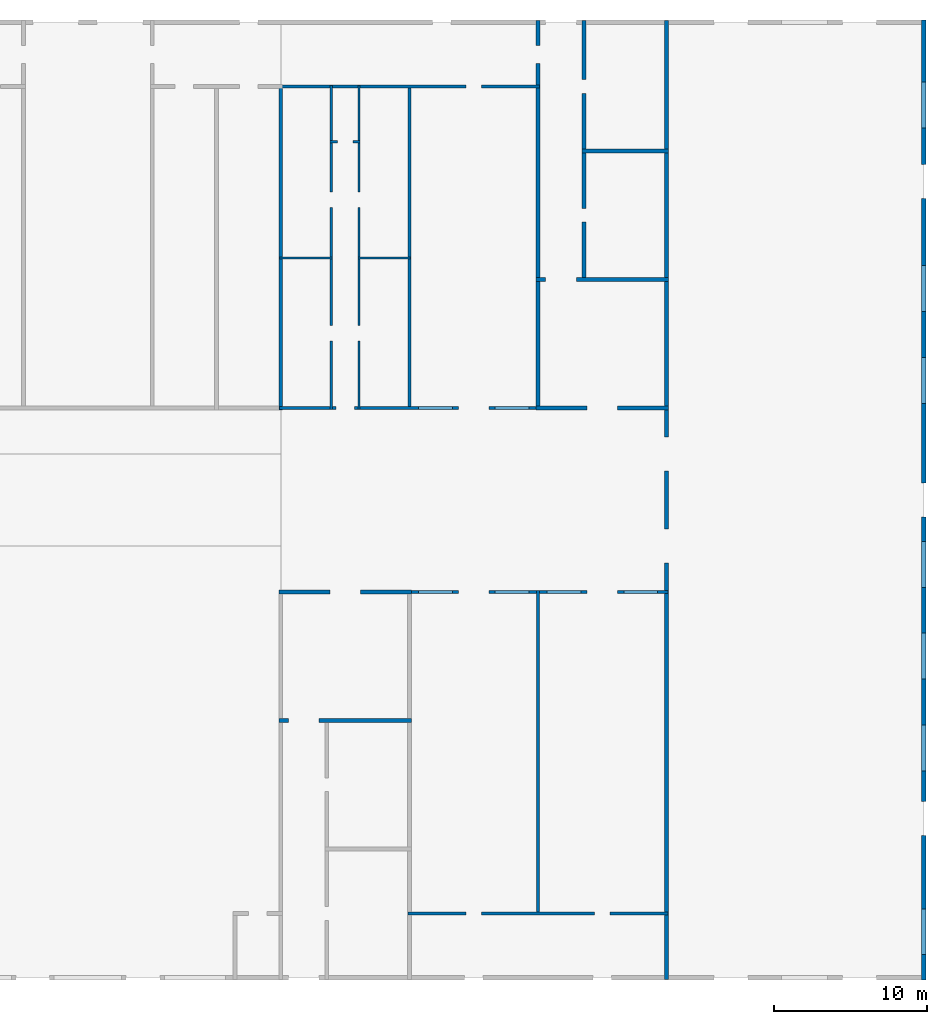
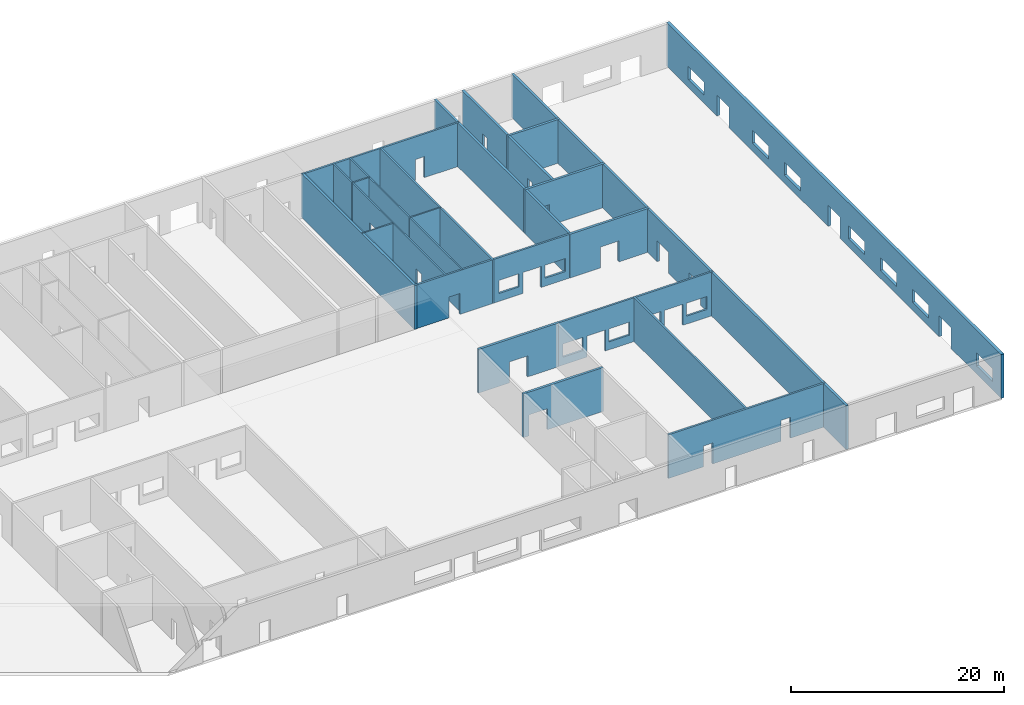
# One storey, part 3 of 3: 21 walls, 49 openings.
"""IFC4 building model written with IfcOpenShell, lengths in millimetres."""

from ifc_helpers import new_model, si_unit, frame, origin_with_axes, place, context, subcontext, project, spatial, indexed_curve, outline, extrude, type_object, element, save


model = new_model("IFC4")

# Units and contexts
model_context = context("Model", 3, precision=1e-05, world=origin_with_axes())
body_context = subcontext(model_context, "Body", "Model", "MODEL_VIEW")
ifc_project = project(units=[si_unit("AREAUNIT", "SQUARE_METRE"), si_unit("VOLUMEUNIT", "CUBIC_METRE"), si_unit("LENGTHUNIT", "METRE", prefix="MILLI")], contexts=[model_context])

# Site, building, storey
site = spatial("IfcSite", under=ifc_project, Name="PIN 00000000 (sample)")
building = spatial("IfcBuilding", under=site, Name="Sample Shopping Mall")
storey = spatial("IfcBuildingStorey", under=building, Name="Ground Floor", Elevation=0.0)

# Wall, openings
wall_type_1 = type_object("IfcWallType", Name="WT-300", PredefinedType="SOLIDWALL")
wall_1_placement = place(None, frame((114750.0, 15449.999999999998, 0.0), z_axis=(0.0, 0.0, 1.0), x_axis=(6.123233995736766e-17, 1.0, 0.0)))
wall_1 = element("IfcWall", 1, at=wall_1_placement, inside=storey, type_object=wall_type_1, Name="W59", context=body_context, shape_type="SweptSolid", body=[
    extrude(outline(indexed_curve([(0.0, 0.0), (0.0, 300.0), (62699.99999999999, 300.0), (62699.99999999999, 0.0), (0.0, 0.0)], self_intersect=False)), origin_with_axes(), (0.0, 0.0, 1.0), 5000.0),
])
opening_1_placement = place(wall_1_placement, frame((9450.0, -99.99999999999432, 0.0), z_axis=(0.0, 0.0, 1.0), x_axis=(1.0, 0.0, 0.0)))
element("IfcOpeningElement", 2, at=opening_1_placement, cuts=wall_1, Name="D16-opening", context=body_context, shape_type="SweptSolid", body=[
    extrude(outline(indexed_curve([(0.0, 0.0), (0.0, 500.0), (1100.0, 500.0), (1100.0, 0.0), (0.0, 0.0)], self_intersect=False)), origin_with_axes(), (0.0, 0.0, 1.0), 2400.0),
])
opening_2_placement = place(wall_1_placement, frame((10550.0, -99.99999999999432, 0.0), z_axis=(0.0, 0.0, 1.0), x_axis=(1.0, 0.0, 0.0)))
element("IfcOpeningElement", 3, at=opening_2_placement, cuts=wall_1, Name="-opening", context=body_context, shape_type="SweptSolid", body=[
    extrude(outline(indexed_curve([(0.0, 0.0), (0.0, 500.0), (1100.0, 500.0), (1100.0, 0.0), (0.0, 0.0)], self_intersect=False)), origin_with_axes(), (0.0, 0.0, 1.0), 2400.0),
])
opening_3_placement = place(wall_1_placement, frame((30250.000000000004, -99.99999999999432, 0.0), z_axis=(0.0, 0.0, 1.0), x_axis=(1.0, 0.0, 0.0)))
element("IfcOpeningElement", 4, at=opening_3_placement, cuts=wall_1, Name="D17-opening", context=body_context, shape_type="SweptSolid", body=[
    extrude(outline(indexed_curve([(0.0, 0.0), (0.0, 500.0), (1100.0, 500.0), (1100.0, 0.0), (0.0, 0.0)], self_intersect=False)), origin_with_axes(), (0.0, 0.0, 1.0), 2400.0),
])
opening_4_placement = place(wall_1_placement, frame((31349.999999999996, -99.99999999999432, 0.0), z_axis=(0.0, 0.0, 1.0), x_axis=(1.0, 0.0, 0.0)))
element("IfcOpeningElement", 5, at=opening_4_placement, cuts=wall_1, Name="-opening", context=body_context, shape_type="SweptSolid", body=[
    extrude(outline(indexed_curve([(0.0, 0.0), (0.0, 500.0), (1100.0, 500.0), (1100.0, 0.0), (0.0, 0.0)], self_intersect=False)), origin_with_axes(), (0.0, 0.0, 1.0), 2400.0),
])
opening_5_placement = place(wall_1_placement, frame((51049.99999999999, -99.99999999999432, 0.0), z_axis=(0.0, 0.0, 1.0), x_axis=(1.0, 0.0, 0.0)))
element("IfcOpeningElement", 6, at=opening_5_placement, cuts=wall_1, Name="D18-opening", context=body_context, shape_type="SweptSolid", body=[
    extrude(outline(indexed_curve([(0.0, 0.0), (0.0, 500.0), (1100.0, 500.0), (1100.0, 0.0), (0.0, 0.0)], self_intersect=False)), origin_with_axes(), (0.0, 0.0, 1.0), 2400.0),
])
opening_6_placement = place(wall_1_placement, frame((52149.99999999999, -99.99999999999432, 0.0), z_axis=(0.0, 0.0, 1.0), x_axis=(1.0, 0.0, 0.0)))
element("IfcOpeningElement", 7, at=opening_6_placement, cuts=wall_1, Name="-opening", context=body_context, shape_type="SweptSolid", body=[
    extrude(outline(indexed_curve([(0.0, 0.0), (0.0, 500.0), (1100.0, 500.0), (1100.0, 0.0), (0.0, 0.0)], self_intersect=False)), origin_with_axes(), (0.0, 0.0, 1.0), 2400.0),
])
opening_7_placement = place(wall_1_placement, frame((1650.000000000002, -99.99999999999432, 900.0), z_axis=(0.0, 0.0, 1.0), x_axis=(1.0, 0.0, 0.0)))
element("IfcOpeningElement", 8, at=opening_7_placement, cuts=wall_1, Name="-opening", context=body_context, shape_type="SweptSolid", body=[
    extrude(outline(indexed_curve([(0.0, 0.0), (0.0, 500.0), (3000.0, 500.0), (3000.0, 0.0), (0.0, 0.0)], self_intersect=False)), origin_with_axes(), (0.0, 0.0, 1.0), 1500.0),
])
opening_8_placement = place(wall_1_placement, frame((13650.000000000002, -99.99999999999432, 900.0), z_axis=(0.0, 0.0, 1.0), x_axis=(1.0, 0.0, 0.0)))
element("IfcOpeningElement", 9, at=opening_8_placement, cuts=wall_1, Name="-opening", context=body_context, shape_type="SweptSolid", body=[
    extrude(outline(indexed_curve([(0.0, 0.0), (0.0, 500.0), (3000.0, 500.0), (3000.0, 0.0), (0.0, 0.0)], self_intersect=False)), origin_with_axes(), (0.0, 0.0, 1.0), 1500.0),
])
opening_9_placement = place(wall_1_placement, frame((19650.0, -99.99999999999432, 900.0), z_axis=(0.0, 0.0, 1.0), x_axis=(1.0, 0.0, 0.0)))
element("IfcOpeningElement", 10, at=opening_9_placement, cuts=wall_1, Name="-opening", context=body_context, shape_type="SweptSolid", body=[
    extrude(outline(indexed_curve([(0.0, 0.0), (0.0, 500.0), (3000.0, 500.0), (3000.0, 0.0), (0.0, 0.0)], self_intersect=False)), origin_with_axes(), (0.0, 0.0, 1.0), 1500.0),
])
opening_10_placement = place(wall_1_placement, frame((25650.0, -99.99999999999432, 900.0), z_axis=(0.0, 0.0, 1.0), x_axis=(1.0, 0.0, 0.0)))
element("IfcOpeningElement", 11, at=opening_10_placement, cuts=wall_1, Name="-opening", context=body_context, shape_type="SweptSolid", body=[
    extrude(outline(indexed_curve([(0.0, 0.0), (0.0, 500.0), (3000.0, 500.0), (3000.0, 0.0), (0.0, 0.0)], self_intersect=False)), origin_with_axes(), (0.0, 0.0, 1.0), 1500.0),
])
opening_11_placement = place(wall_1_placement, frame((37650.00000000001, -99.99999999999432, 900.0), z_axis=(0.0, 0.0, 1.0), x_axis=(1.0, 0.0, 0.0)))
element("IfcOpeningElement", 12, at=opening_11_placement, cuts=wall_1, Name="-opening", context=body_context, shape_type="SweptSolid", body=[
    extrude(outline(indexed_curve([(0.0, 0.0), (0.0, 500.0), (3000.0, 500.0), (3000.0, 0.0), (0.0, 0.0)], self_intersect=False)), origin_with_axes(), (0.0, 0.0, 1.0), 1500.0),
])
opening_12_placement = place(wall_1_placement, frame((43650.00000000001, -99.99999999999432, 900.0), z_axis=(0.0, 0.0, 1.0), x_axis=(1.0, 0.0, 0.0)))
element("IfcOpeningElement", 13, at=opening_12_placement, cuts=wall_1, Name="-opening", context=body_context, shape_type="SweptSolid", body=[
    extrude(outline(indexed_curve([(0.0, 0.0), (0.0, 500.0), (3000.0, 500.0), (3000.0, 0.0), (0.0, 0.0)], self_intersect=False)), origin_with_axes(), (0.0, 0.0, 1.0), 1500.0),
])
opening_13_placement = place(wall_1_placement, frame((55650.00000000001, -99.99999999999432, 900.0), z_axis=(0.0, 0.0, 1.0), x_axis=(1.0, 0.0, 0.0)))
element("IfcOpeningElement", 14, at=opening_13_placement, cuts=wall_1, Name="-opening", context=body_context, shape_type="SweptSolid", body=[
    extrude(outline(indexed_curve([(0.0, 0.0), (0.0, 500.0), (3000.0, 500.0), (3000.0, 0.0), (0.0, 0.0)], self_intersect=False)), origin_with_axes(), (0.0, 0.0, 1.0), 1500.0),
])

wall_type_2 = type_object("IfcWallType", Name="WT-200", PredefinedType="SOLIDWALL")
wall_2_placement = place(None, frame((80900.0, 19700.0, 0.0), z_axis=(0.0, 0.0, 1.0), x_axis=(1.0, 0.0, 0.0)))
wall_2 = element("IfcWall", 15, at=wall_2_placement, inside=storey, type_object=wall_type_2, Name="W4", context=body_context, shape_type="SweptSolid", body=[
    extrude(outline(indexed_curve([(0.0, 0.0), (0.0, 200.0), (16999.999999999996, 200.0), (16999.999999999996, 0.0), (0.0, 0.0)], self_intersect=False)), origin_with_axes(), (0.0, 0.0, 1.0), 5000.0),
])
opening_14_placement = place(wall_2_placement, frame((3799.9999999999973, -99.99999999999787, 0.0), z_axis=(0.0, 0.0, 1.0), x_axis=(1.0, 0.0, 0.0)))
element("IfcOpeningElement", 16, at=opening_14_placement, cuts=wall_2, Name="-opening", context=body_context, shape_type="SweptSolid", body=[
    extrude(outline(indexed_curve([(0.0, 0.0), (0.0, 400.0), (1000.0, 400.0), (1000.0, 0.0), (0.0, 0.0)], self_intersect=False)), origin_with_axes(), (0.0, 0.0, 1.0), 2400.0),
])
opening_15_placement = place(wall_2_placement, frame((12199.999999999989, -99.99999999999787, 0.0), z_axis=(0.0, 0.0, 1.0), x_axis=(1.0, 0.0, 0.0)))
element("IfcOpeningElement", 17, at=opening_15_placement, cuts=wall_2, Name="-opening", context=body_context, shape_type="SweptSolid", body=[
    extrude(outline(indexed_curve([(0.0, 0.0), (0.0, 400.0), (1000.0, 400.0), (1000.0, 0.0), (0.0, 0.0)], self_intersect=False)), origin_with_axes(), (0.0, 0.0, 1.0), 2400.0),
])

wall_3_placement = place(None, frame((80900.0, 40699.99999999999, 0.0), z_axis=(0.0, 0.0, 1.0), x_axis=(1.0, 0.0, 0.0)))
wall_3 = element("IfcWall", 18, at=wall_3_placement, inside=storey, type_object=wall_type_2, Name="W12", context=body_context, shape_type="SweptSolid", body=[
    extrude(outline(indexed_curve([(0.0, 0.0), (0.0, 200.0), (16999.999999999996, 200.0), (16999.999999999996, 0.0), (0.0, 0.0)], self_intersect=False)), origin_with_axes(), (0.0, 0.0, 1.0), 5000.0),
])
opening_16_placement = place(wall_3_placement, frame((3299.9999999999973, -100.00000000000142, 0.0), z_axis=(0.0, 0.0, 1.0), x_axis=(1.0, 0.0, 0.0)))
element("IfcOpeningElement", 19, at=opening_16_placement, cuts=wall_3, Name="D46-opening", context=body_context, shape_type="SweptSolid", body=[
    extrude(outline(indexed_curve([(0.0, 0.0), (0.0, 400.0), (1000.0, 400.0), (1000.0, 0.0), (0.0, 0.0)], self_intersect=False)), origin_with_axes(), (0.0, 0.0, 1.0), 2400.0),
])
opening_17_placement = place(wall_3_placement, frame((4299.999999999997, -100.00000000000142, 0.0), z_axis=(0.0, 0.0, 1.0), x_axis=(1.0, 0.0, 0.0)))
element("IfcOpeningElement", 20, at=opening_17_placement, cuts=wall_3, Name="-opening", context=body_context, shape_type="SweptSolid", body=[
    extrude(outline(indexed_curve([(0.0, 0.0), (0.0, 400.0), (1000.0, 400.0), (1000.0, 0.0), (0.0, 0.0)], self_intersect=False)), origin_with_axes(), (0.0, 0.0, 1.0), 2400.0),
])
opening_18_placement = place(wall_3_placement, frame((11699.999999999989, -100.00000000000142, 0.0), z_axis=(0.0, 0.0, 1.0), x_axis=(1.0, 0.0, 0.0)))
element("IfcOpeningElement", 21, at=opening_18_placement, cuts=wall_3, Name="D48-opening", context=body_context, shape_type="SweptSolid", body=[
    extrude(outline(indexed_curve([(0.0, 0.0), (0.0, 400.0), (1000.0, 400.0), (1000.0, 0.0), (0.0, 0.0)], self_intersect=False)), origin_with_axes(), (0.0, 0.0, 1.0), 2400.0),
])
opening_19_placement = place(wall_3_placement, frame((12699.999999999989, -100.00000000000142, 0.0), z_axis=(0.0, 0.0, 1.0), x_axis=(1.0, 0.0, 0.0)))
element("IfcOpeningElement", 22, at=opening_19_placement, cuts=wall_3, Name="-opening", context=body_context, shape_type="SweptSolid", body=[
    extrude(outline(indexed_curve([(0.0, 0.0), (0.0, 400.0), (1000.0, 400.0), (1000.0, 0.0), (0.0, 0.0)], self_intersect=False)), origin_with_axes(), (0.0, 0.0, 1.0), 2400.0),
])
opening_20_placement = place(wall_3_placement, frame((699.9999999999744, -100.00000000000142, 900.0), z_axis=(0.0, 0.0, 1.0), x_axis=(1.0, 0.0, 0.0)))
element("IfcOpeningElement", 23, at=opening_20_placement, cuts=wall_3, Name="-opening", context=body_context, shape_type="SweptSolid", body=[
    extrude(outline(indexed_curve([(0.0, 0.0), (0.0, 400.0), (2200.0, 400.0), (2200.0, 0.0), (0.0, 0.0)], self_intersect=False)), origin_with_axes(), (0.0, 0.0, 1.0), 1500.0),
])
opening_21_placement = place(wall_3_placement, frame((5699.999999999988, -100.00000000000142, 900.0), z_axis=(0.0, 0.0, 1.0), x_axis=(1.0, 0.0, 0.0)))
element("IfcOpeningElement", 24, at=opening_21_placement, cuts=wall_3, Name="-opening", context=body_context, shape_type="SweptSolid", body=[
    extrude(outline(indexed_curve([(0.0, 0.0), (0.0, 400.0), (2200.0, 400.0), (2200.0, 0.0), (0.0, 0.0)], self_intersect=False)), origin_with_axes(), (0.0, 0.0, 1.0), 1500.0),
])
opening_22_placement = place(wall_3_placement, frame((9099.999999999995, -100.00000000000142, 900.0), z_axis=(0.0, 0.0, 1.0), x_axis=(1.0, 0.0, 0.0)))
element("IfcOpeningElement", 25, at=opening_22_placement, cuts=wall_3, Name="-opening", context=body_context, shape_type="SweptSolid", body=[
    extrude(outline(indexed_curve([(0.0, 0.0), (0.0, 400.0), (2200.0, 400.0), (2200.0, 0.0), (0.0, 0.0)], self_intersect=False)), origin_with_axes(), (0.0, 0.0, 1.0), 1500.0),
])
opening_23_placement = place(wall_3_placement, frame((14099.999999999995, -100.00000000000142, 900.0), z_axis=(0.0, 0.0, 1.0), x_axis=(1.0, 0.0, 0.0)))
element("IfcOpeningElement", 26, at=opening_23_placement, cuts=wall_3, Name="-opening", context=body_context, shape_type="SweptSolid", body=[
    extrude(outline(indexed_curve([(0.0, 0.0), (0.0, 400.0), (2200.0, 400.0), (2200.0, 0.0), (0.0, 0.0)], self_intersect=False)), origin_with_axes(), (0.0, 0.0, 1.0), 1500.0),
])

wall_4_placement = place(None, frame((72500.0, 52699.99999999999, 0.0), z_axis=(0.0, 0.0, 1.0), x_axis=(1.0, 0.0, 0.0)))
wall_4 = element("IfcWall", 27, at=wall_4_placement, inside=storey, type_object=wall_type_2, Name="W15", context=body_context, shape_type="SweptSolid", body=[
    extrude(outline(indexed_curve([(0.0, 0.0), (0.0, 200.0), (17000.00000000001, 200.0), (17000.00000000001, 0.0), (0.0, 0.0)], self_intersect=False)), origin_with_axes(), (0.0, 0.0, 1.0), 5000.0),
])
opening_24_placement = place(wall_4_placement, frame((3699.9999999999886, -100.00000000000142, 0.0), z_axis=(0.0, 0.0, 1.0), x_axis=(1.0, 0.0, 0.0)))
element("IfcOpeningElement", 28, at=opening_24_placement, cuts=wall_4, Name="D68-opening", context=body_context, shape_type="SweptSolid", body=[
    extrude(outline(indexed_curve([(0.0, 0.0), (0.0, 400.0), (1200.0, 400.0), (1200.0, 0.0), (0.0, 0.0)], self_intersect=False)), origin_with_axes(), (0.0, 0.0, 1.0), 2400.0),
])
opening_25_placement = place(wall_4_placement, frame((11699.999999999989, -100.00000000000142, 0.0), z_axis=(0.0, 0.0, 1.0), x_axis=(1.0, 0.0, 0.0)))
element("IfcOpeningElement", 29, at=opening_25_placement, cuts=wall_4, Name="D74-opening", context=body_context, shape_type="SweptSolid", body=[
    extrude(outline(indexed_curve([(0.0, 0.0), (0.0, 400.0), (1000.0, 400.0), (1000.0, 0.0), (0.0, 0.0)], self_intersect=False)), origin_with_axes(), (0.0, 0.0, 1.0), 2400.0),
])
opening_26_placement = place(wall_4_placement, frame((12699.999999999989, -100.00000000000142, 0.0), z_axis=(0.0, 0.0, 1.0), x_axis=(1.0, 0.0, 0.0)))
element("IfcOpeningElement", 30, at=opening_26_placement, cuts=wall_4, Name="-opening", context=body_context, shape_type="SweptSolid", body=[
    extrude(outline(indexed_curve([(0.0, 0.0), (0.0, 400.0), (1000.0, 400.0), (1000.0, 0.0), (0.0, 0.0)], self_intersect=False)), origin_with_axes(), (0.0, 0.0, 1.0), 2400.0),
])
opening_27_placement = place(wall_4_placement, frame((9099.99999999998, -100.00000000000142, 900.0), z_axis=(0.0, 0.0, 1.0), x_axis=(1.0, 0.0, 0.0)))
element("IfcOpeningElement", 31, at=opening_27_placement, cuts=wall_4, Name="-opening", context=body_context, shape_type="SweptSolid", body=[
    extrude(outline(indexed_curve([(0.0, 0.0), (0.0, 400.0), (2200.0, 400.0), (2200.0, 0.0), (0.0, 0.0)], self_intersect=False)), origin_with_axes(), (0.0, 0.0, 1.0), 1500.0),
])
opening_28_placement = place(wall_4_placement, frame((14099.999999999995, -100.00000000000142, 900.0), z_axis=(0.0, 0.0, 1.0), x_axis=(1.0, 0.0, 0.0)))
element("IfcOpeningElement", 32, at=opening_28_placement, cuts=wall_4, Name="-opening", context=body_context, shape_type="SweptSolid", body=[
    extrude(outline(indexed_curve([(0.0, 0.0), (0.0, 400.0), (2200.0, 400.0), (2200.0, 0.0), (0.0, 0.0)], self_intersect=False)), origin_with_axes(), (0.0, 0.0, 1.0), 1500.0),
])

# Wall, opening
wall_5_placement = place(None, frame((72500.0, 73700.0, 0.0), z_axis=(0.0, 0.0, 1.0), x_axis=(1.0, 0.0, 0.0)))
wall_5 = element("IfcWall", 33, at=wall_5_placement, inside=storey, type_object=wall_type_2, Name="W28", context=body_context, shape_type="SweptSolid", body=[
    extrude(outline(indexed_curve([(0.0, 0.0), (0.0, 200.0), (17000.00000000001, 200.0), (17000.00000000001, 0.0), (0.0, 0.0)], self_intersect=False)), origin_with_axes(), (0.0, 0.0, 1.0), 5000.0),
])
opening_29_placement = place(wall_5_placement, frame((12199.999999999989, -99.99999999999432, 0.0), z_axis=(0.0, 0.0, 1.0), x_axis=(1.0, 0.0, 0.0)))
element("IfcOpeningElement", 34, at=opening_29_placement, cuts=wall_5, Name="-opening", context=body_context, shape_type="SweptSolid", body=[
    extrude(outline(indexed_curve([(0.0, 0.0), (0.0, 400.0), (1000.0, 400.0), (1000.0, 0.0), (0.0, 0.0)], self_intersect=False)), origin_with_axes(), (0.0, 0.0, 1.0), 2400.0),
])

# Walls
wall_6_placement = place(None, frame((81099.99999999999, 52699.99999999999, 0.0), z_axis=(0.0, 0.0, 1.0), x_axis=(6.123233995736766e-17, 1.0, 0.0)))
element("IfcWall", 35, at=wall_6_placement, inside=storey, type_object=wall_type_2, Name="W54", context=body_context, shape_type="SweptSolid", body=[
    extrude(outline(indexed_curve([(0.0, 0.0), (0.0, 200.0), (21200.0, 200.0), (21200.0, 0.0), (0.0, 0.0)], self_intersect=False)), origin_with_axes(), (0.0, 0.0, 1.0), 5000.0),
])
wall_7_placement = place(None, frame((89500.0, 19700.0, 0.0), z_axis=(0.0, 0.0, 1.0), x_axis=(6.123233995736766e-17, 1.0, 0.0)))
element("IfcWall", 36, at=wall_7_placement, inside=storey, type_object=wall_type_2, Name="W55", context=body_context, shape_type="SweptSolid", body=[
    extrude(outline(indexed_curve([(0.0, 0.0), (0.0, 200.0), (21199.999999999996, 200.0), (21199.999999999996, 0.0), (0.0, 0.0)], self_intersect=False)), origin_with_axes(), (0.0, 0.0, 1.0), 5000.0),
])

# Wall, openings
wall_type_3 = type_object("IfcWallType", Name="WT-250", PredefinedType="SOLIDWALL")
wall_8_placement = place(None, frame((72475.0, 32274.999999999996, 0.0), z_axis=(0.0, 0.0, 1.0), x_axis=(1.0, 0.0, 0.0)))
wall_8 = element("IfcWall", 37, at=wall_8_placement, inside=storey, type_object=wall_type_3, Name="W8", context=body_context, shape_type="SweptSolid", body=[
    extrude(outline(indexed_curve([(0.0, 0.0), (0.0, 250.0), (8650.000000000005, 250.0), (8650.000000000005, 0.0), (0.0, 0.0)], self_intersect=False)), origin_with_axes(), (0.0, 0.0, 1.0), 5000.0),
])
opening_30_placement = place(wall_8_placement, frame((625.0, -100.00000000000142, 0.0), z_axis=(0.0, 0.0, 1.0), x_axis=(1.0, 0.0, 0.0)))
element("IfcOpeningElement", 38, at=opening_30_placement, cuts=wall_8, Name="D42-opening", context=body_context, shape_type="SweptSolid", body=[
    extrude(outline(indexed_curve([(0.0, 0.0), (0.0, 450.0), (1000.0, 450.0), (1000.0, 0.0), (0.0, 0.0)], self_intersect=False)), origin_with_axes(), (0.0, 0.0, 1.0), 2400.0),
])
opening_31_placement = place(wall_8_placement, frame((1625.0, -100.00000000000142, 0.0), z_axis=(0.0, 0.0, 1.0), x_axis=(1.0, 0.0, 0.0)))
element("IfcOpeningElement", 39, at=opening_31_placement, cuts=wall_8, Name="-opening", context=body_context, shape_type="SweptSolid", body=[
    extrude(outline(indexed_curve([(0.0, 0.0), (0.0, 450.0), (1000.0, 450.0), (1000.0, 0.0), (0.0, 0.0)], self_intersect=False)), origin_with_axes(), (0.0, 0.0, 1.0), 2400.0),
])

wall_9_placement = place(None, frame((72475.0, 40674.99999999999, 0.0), z_axis=(0.0, 0.0, 1.0), x_axis=(1.0, 0.0, 0.0)))
wall_9 = element("IfcWall", 40, at=wall_9_placement, inside=storey, type_object=wall_type_3, Name="W11", context=body_context, shape_type="SweptSolid", body=[
    extrude(outline(indexed_curve([(0.0, 0.0), (0.0, 250.0), (8650.000000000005, 250.0), (8650.000000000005, 0.0), (0.0, 0.0)], self_intersect=False)), origin_with_axes(), (0.0, 0.0, 1.0), 5000.0),
])
opening_32_placement = place(wall_9_placement, frame((3324.9999999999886, -99.99999999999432, 0.0), z_axis=(0.0, 0.0, 1.0), x_axis=(1.0, 0.0, 0.0)))
element("IfcOpeningElement", 41, at=opening_32_placement, cuts=wall_9, Name="D41-opening", context=body_context, shape_type="SweptSolid", body=[
    extrude(outline(indexed_curve([(0.0, 0.0), (0.0, 450.0), (1000.0, 450.0), (1000.0, 0.0), (0.0, 0.0)], self_intersect=False)), origin_with_axes(), (0.0, 0.0, 1.0), 2400.0),
])
opening_33_placement = place(wall_9_placement, frame((4324.999999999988, -99.99999999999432, 0.0), z_axis=(0.0, 0.0, 1.0), x_axis=(1.0, 0.0, 0.0)))
element("IfcOpeningElement", 42, at=opening_33_placement, cuts=wall_9, Name="-opening", context=body_context, shape_type="SweptSolid", body=[
    extrude(outline(indexed_curve([(0.0, 0.0), (0.0, 450.0), (1000.0, 450.0), (1000.0, 0.0), (0.0, 0.0)], self_intersect=False)), origin_with_axes(), (0.0, 0.0, 1.0), 2400.0),
])

wall_10_placement = place(None, frame((89275.0, 52674.99999999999, 0.0), z_axis=(0.0, 0.0, 1.0), x_axis=(1.0, 0.0, 0.0)))
wall_10 = element("IfcWall", 43, at=wall_10_placement, inside=storey, type_object=wall_type_3, Name="W16", context=body_context, shape_type="SweptSolid", body=[
    extrude(outline(indexed_curve([(0.0, 0.0), (0.0, 250.0), (8649.99999999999, 250.0), (8649.99999999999, 0.0), (0.0, 0.0)], self_intersect=False)), origin_with_axes(), (0.0, 0.0, 1.0), 5000.0),
])
opening_34_placement = place(wall_10_placement, frame((3325.0000000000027, -100.00000000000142, 0.0), z_axis=(0.0, 0.0, 1.0), x_axis=(1.0, 0.0, 0.0)))
element("IfcOpeningElement", 44, at=opening_34_placement, cuts=wall_10, Name="D76-opening", context=body_context, shape_type="SweptSolid", body=[
    extrude(outline(indexed_curve([(0.0, 0.0), (0.0, 450.0), (1000.0, 450.0), (1000.0, 0.0), (0.0, 0.0)], self_intersect=False)), origin_with_axes(), (0.0, 0.0, 1.0), 2400.0),
])
opening_35_placement = place(wall_10_placement, frame((4325.000000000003, -100.00000000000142, 0.0), z_axis=(0.0, 0.0, 1.0), x_axis=(1.0, 0.0, 0.0)))
element("IfcOpeningElement", 45, at=opening_35_placement, cuts=wall_10, Name="-opening", context=body_context, shape_type="SweptSolid", body=[
    extrude(outline(indexed_curve([(0.0, 0.0), (0.0, 450.0), (1000.0, 450.0), (1000.0, 0.0), (0.0, 0.0)], self_intersect=False)), origin_with_axes(), (0.0, 0.0, 1.0), 2400.0),
])

wall_11_placement = place(None, frame((89275.0, 61075.0, 0.0), z_axis=(0.0, 0.0, 1.0), x_axis=(1.0, 0.0, 0.0)))
wall_11 = element("IfcWall", 46, at=wall_11_placement, inside=storey, type_object=wall_type_3, Name="W17", context=body_context, shape_type="SweptSolid", body=[
    extrude(outline(indexed_curve([(0.0, 0.0), (0.0, 250.0), (8649.99999999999, 250.0), (8649.99999999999, 0.0), (0.0, 0.0)], self_intersect=False)), origin_with_axes(), (0.0, 0.0, 1.0), 5000.0),
])
opening_36_placement = place(wall_11_placement, frame((625.0, -100.00000000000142, 0.0), z_axis=(0.0, 0.0, 1.0), x_axis=(1.0, 0.0, 0.0)))
element("IfcOpeningElement", 47, at=opening_36_placement, cuts=wall_11, Name="D77-opening", context=body_context, shape_type="SweptSolid", body=[
    extrude(outline(indexed_curve([(0.0, 0.0), (0.0, 450.0), (1000.0, 450.0), (1000.0, 0.0), (0.0, 0.0)], self_intersect=False)), origin_with_axes(), (0.0, 0.0, 1.0), 2400.0),
])
opening_37_placement = place(wall_11_placement, frame((1625.0, -100.00000000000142, 0.0), z_axis=(0.0, 0.0, 1.0), x_axis=(1.0, 0.0, 0.0)))
element("IfcOpeningElement", 48, at=opening_37_placement, cuts=wall_11, Name="-opening", context=body_context, shape_type="SweptSolid", body=[
    extrude(outline(indexed_curve([(0.0, 0.0), (0.0, 450.0), (1000.0, 450.0), (1000.0, 0.0), (0.0, 0.0)], self_intersect=False)), origin_with_axes(), (0.0, 0.0, 1.0), 2400.0),
])

# Walls
wall_12_placement = place(None, frame((92275.0, 69475.0, 0.0), z_axis=(0.0, 0.0, 1.0), x_axis=(1.0, 0.0, 0.0)))
element("IfcWall", 49, at=wall_12_placement, inside=storey, type_object=wall_type_3, Name="W22", context=body_context, shape_type="SweptSolid", body=[
    extrude(outline(indexed_curve([(0.0, 0.0), (0.0, 250.0), (5649.999999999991, 250.0), (5649.999999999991, 0.0), (0.0, 0.0)], self_intersect=False)), origin_with_axes(), (0.0, 0.0, 1.0), 5000.0),
])
wall_13_placement = place(None, frame((72725.0, 52674.99999999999, 0.0), z_axis=(0.0, 0.0, 1.0), x_axis=(6.123233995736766e-17, 1.0, 0.0)))
element("IfcWall", 50, at=wall_13_placement, inside=storey, type_object=wall_type_3, Name="W49", context=body_context, shape_type="SweptSolid", body=[
    extrude(outline(indexed_curve([(0.0, 0.0), (0.0, 250.0), (21250.0, 250.0), (21250.0, 0.0), (0.0, 0.0)], self_intersect=False)), origin_with_axes(), (0.0, 0.0, 1.0), 5000.0),
])

# Wall, opening
wall_14_placement = place(None, frame((89525.0, 52674.99999999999, 0.0), z_axis=(0.0, 0.0, 1.0), x_axis=(6.123233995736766e-17, 1.0, 0.0)))
wall_14 = element("IfcWall", 51, at=wall_14_placement, inside=storey, type_object=wall_type_3, Name="W56", context=body_context, shape_type="SweptSolid", body=[
    extrude(outline(indexed_curve([(0.0, 0.0), (0.0, 250.0), (25450.000000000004, 250.0), (25450.000000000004, 0.0), (0.0, 0.0)], self_intersect=False)), origin_with_axes(), (0.0, 0.0, 1.0), 5000.0),
])
opening_38_placement = place(wall_14_placement, frame((22624.999999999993, -99.99999999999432, 0.0), z_axis=(0.0, 0.0, 1.0), x_axis=(1.0, 0.0, 0.0)))
element("IfcOpeningElement", 52, at=opening_38_placement, cuts=wall_14, Name="-opening", context=body_context, shape_type="SweptSolid", body=[
    extrude(outline(indexed_curve([(0.0, 0.0), (0.0, 450.0), (1200.0, 450.0), (1200.0, 0.0), (0.0, 0.0)], self_intersect=False)), origin_with_axes(), (0.0, 0.0, 1.0), 2400.0),
])

# Wall, openings
wall_15_placement = place(None, frame((92525.0, 61075.0, 0.0), z_axis=(0.0, 0.0, 1.0), x_axis=(6.123233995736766e-17, 1.0, 0.0)))
wall_15 = element("IfcWall", 53, at=wall_15_placement, inside=storey, type_object=wall_type_3, Name="W57", context=body_context, shape_type="SweptSolid", body=[
    extrude(outline(indexed_curve([(0.0, 0.0), (0.0, 250.0), (17049.999999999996, 250.0), (17049.999999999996, 0.0), (0.0, 0.0)], self_intersect=False)), origin_with_axes(), (0.0, 0.0, 1.0), 5000.0),
])
opening_39_placement = place(wall_15_placement, frame((3874.9999999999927, -99.99999999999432, 0.0), z_axis=(0.0, 0.0, 1.0), x_axis=(1.0, 0.0, 0.0)))
element("IfcOpeningElement", 54, at=opening_39_placement, cuts=wall_15, Name="-opening", context=body_context, shape_type="SweptSolid", body=[
    extrude(outline(indexed_curve([(0.0, 0.0), (0.0, 450.0), (900.0, 450.0), (900.0, 0.0), (0.0, 0.0)], self_intersect=False)), origin_with_axes(), (0.0, 0.0, 1.0), 2400.0),
])
opening_40_placement = place(wall_15_placement, frame((12274.999999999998, -99.99999999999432, 0.0), z_axis=(0.0, 0.0, 1.0), x_axis=(1.0, 0.0, 0.0)))
element("IfcOpeningElement", 55, at=opening_40_placement, cuts=wall_15, Name="-opening", context=body_context, shape_type="SweptSolid", body=[
    extrude(outline(indexed_curve([(0.0, 0.0), (0.0, 450.0), (900.0, 450.0), (900.0, 0.0), (0.0, 0.0)], self_intersect=False)), origin_with_axes(), (0.0, 0.0, 1.0), 2400.0),
])

wall_16_placement = place(None, frame((97925.0, 15475.0, 0.0), z_axis=(0.0, 0.0, 1.0), x_axis=(6.123233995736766e-17, 1.0, 0.0)))
wall_16 = element("IfcWall", 56, at=wall_16_placement, inside=storey, type_object=wall_type_3, Name="W58", context=body_context, shape_type="SweptSolid", body=[
    extrude(outline(indexed_curve([(0.0, 0.0), (0.0, 250.0), (62650.0, 250.0), (62650.0, 0.0), (0.0, 0.0)], self_intersect=False)), origin_with_axes(), (0.0, 0.0, 1.0), 5000.0),
])
opening_41_placement = place(wall_16_placement, frame((27225.000000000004, -99.99999999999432, 0.0), z_axis=(0.0, 0.0, 1.0), x_axis=(1.0, 0.0, 0.0)))
element("IfcOpeningElement", 57, at=opening_41_placement, cuts=wall_16, Name="D14-opening", context=body_context, shape_type="SweptSolid", body=[
    extrude(outline(indexed_curve([(0.0, 0.0), (0.0, 450.0), (1100.0, 450.0), (1100.0, 0.0), (0.0, 0.0)], self_intersect=False)), origin_with_axes(), (0.0, 0.0, 1.0), 2400.0),
])
opening_42_placement = place(wall_16_placement, frame((28325.0, -99.99999999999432, 0.0), z_axis=(0.0, 0.0, 1.0), x_axis=(1.0, 0.0, 0.0)))
element("IfcOpeningElement", 58, at=opening_42_placement, cuts=wall_16, Name="-opening", context=body_context, shape_type="SweptSolid", body=[
    extrude(outline(indexed_curve([(0.0, 0.0), (0.0, 450.0), (1100.0, 450.0), (1100.0, 0.0), (0.0, 0.0)], self_intersect=False)), origin_with_axes(), (0.0, 0.0, 1.0), 2400.0),
])
opening_43_placement = place(wall_16_placement, frame((33225.00000000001, -99.99999999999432, 0.0), z_axis=(0.0, 0.0, 1.0), x_axis=(1.0, 0.0, 0.0)))
element("IfcOpeningElement", 59, at=opening_43_placement, cuts=wall_16, Name="D15-opening", context=body_context, shape_type="SweptSolid", body=[
    extrude(outline(indexed_curve([(0.0, 0.0), (0.0, 450.0), (1100.0, 450.0), (1100.0, 0.0), (0.0, 0.0)], self_intersect=False)), origin_with_axes(), (0.0, 0.0, 1.0), 2400.0),
])
opening_44_placement = place(wall_16_placement, frame((34325.0, -99.99999999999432, 0.0), z_axis=(0.0, 0.0, 1.0), x_axis=(1.0, 0.0, 0.0)))
element("IfcOpeningElement", 60, at=opening_44_placement, cuts=wall_16, Name="-opening", context=body_context, shape_type="SweptSolid", body=[
    extrude(outline(indexed_curve([(0.0, 0.0), (0.0, 450.0), (1100.0, 450.0), (1100.0, 0.0), (0.0, 0.0)], self_intersect=False)), origin_with_axes(), (0.0, 0.0, 1.0), 2400.0),
])

# Walls
wall_type_4 = type_object("IfcWallType", Name="WT-150", PredefinedType="SOLIDWALL")
wall_17_placement = place(None, frame((72524.99999999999, 62525.0, 0.0), z_axis=(0.0, 0.0, 1.0), x_axis=(1.0, 0.0, 0.0)))
element("IfcWall", 61, at=wall_17_placement, inside=storey, type_object=wall_type_4, Name="W20", context=body_context, shape_type="SweptSolid", body=[
    extrude(outline(indexed_curve([(0.0, 0.0), (0.0, 150.0), (3450.0000000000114, 150.0), (3450.0000000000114, 0.0), (0.0, 0.0)], self_intersect=False)), origin_with_axes(), (0.0, 0.0, 1.0), 5000.0),
])
wall_18_placement = place(None, frame((77625.0, 62525.0, 0.0), z_axis=(0.0, 0.0, 1.0), x_axis=(1.0, 0.0, 0.0)))
element("IfcWall", 62, at=wall_18_placement, inside=storey, type_object=wall_type_4, Name="W21", context=body_context, shape_type="SweptSolid", body=[
    extrude(outline(indexed_curve([(0.0, 0.0), (0.0, 150.0), (3449.999999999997, 150.0), (3449.999999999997, 0.0), (0.0, 0.0)], self_intersect=False)), origin_with_axes(), (0.0, 0.0, 1.0), 5000.0),
])

# Wall, opening
wall_19_placement = place(None, frame((75825.0, 70125.0, 0.0), z_axis=(0.0, 0.0, 1.0), x_axis=(1.0, 0.0, 0.0)))
wall_19 = element("IfcWall", 63, at=wall_19_placement, inside=storey, type_object=wall_type_4, Name="W24", context=body_context, shape_type="SweptSolid", body=[
    extrude(outline(indexed_curve([(0.0, 0.0), (0.0, 150.0), (1949.999999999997, 150.0), (1949.999999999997, 0.0), (0.0, 0.0)], self_intersect=False)), origin_with_axes(), (0.0, 0.0, 1.0), 5000.0),
])
opening_45_placement = place(wall_19_placement, frame((475.0000000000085, -99.99999999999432, 0.0), z_axis=(0.0, 0.0, 1.0), x_axis=(1.0, 0.0, 0.0)))
element("IfcOpeningElement", 64, at=opening_45_placement, cuts=wall_19, Name="-opening", context=body_context, shape_type="SweptSolid", body=[
    extrude(outline(indexed_curve([(0.0, 0.0), (0.0, 349.99999999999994), (1000.0, 349.99999999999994), (1000.0, 0.0), (0.0, 0.0)], self_intersect=False)), origin_with_axes(), (0.0, 0.0, 1.0), 2400.0),
])

# Wall, openings
wall_20_placement = place(None, frame((75975.0, 52724.99999999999, 0.0), z_axis=(0.0, 0.0, 1.0), x_axis=(6.123233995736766e-17, 1.0, 0.0)))
wall_20 = element("IfcWall", 65, at=wall_20_placement, inside=storey, type_object=wall_type_4, Name="W51", context=body_context, shape_type="SweptSolid", body=[
    extrude(outline(indexed_curve([(0.0, 0.0), (0.0, 150.0), (21149.999999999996, 150.0), (21149.999999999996, 0.0), (0.0, 0.0)], self_intersect=False)), origin_with_axes(), (0.0, 0.0, 1.0), 5000.0),
])
opening_46_placement = place(wall_20_placement, frame((4475.000000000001, -99.99999999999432, 0.0), z_axis=(0.0, 0.0, 1.0), x_axis=(1.0, 0.0, 0.0)))
element("IfcOpeningElement", 66, at=opening_46_placement, cuts=wall_20, Name="-opening", context=body_context, shape_type="SweptSolid", body=[
    extrude(outline(indexed_curve([(0.0, 0.0), (0.0, 349.99999999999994), (1000.0, 349.99999999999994), (1000.0, 0.0), (0.0, 0.0)], self_intersect=False)), origin_with_axes(), (0.0, 0.0, 1.0), 2400.0),
])
opening_47_placement = place(wall_20_placement, frame((13174.999999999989, -99.99999999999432, 0.0), z_axis=(0.0, 0.0, 1.0), x_axis=(1.0, 0.0, 0.0)))
element("IfcOpeningElement", 67, at=opening_47_placement, cuts=wall_20, Name="-opening", context=body_context, shape_type="SweptSolid", body=[
    extrude(outline(indexed_curve([(0.0, 0.0), (0.0, 349.99999999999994), (1000.0, 349.99999999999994), (1000.0, 0.0), (0.0, 0.0)], self_intersect=False)), origin_with_axes(), (0.0, 0.0, 1.0), 2400.0),
])

wall_21_placement = place(None, frame((77775.0, 52724.99999999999, 0.0), z_axis=(0.0, 0.0, 1.0), x_axis=(6.123233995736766e-17, 1.0, 0.0)))
wall_21 = element("IfcWall", 68, at=wall_21_placement, inside=storey, type_object=wall_type_4, Name="W52", context=body_context, shape_type="SweptSolid", body=[
    extrude(outline(indexed_curve([(0.0, 0.0), (0.0, 150.0), (21149.999999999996, 150.0), (21149.999999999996, 0.0), (0.0, 0.0)], self_intersect=False)), origin_with_axes(), (0.0, 0.0, 1.0), 5000.0),
])
opening_48_placement = place(wall_21_placement, frame((4475.000000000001, -99.99999999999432, 0.0), z_axis=(0.0, 0.0, 1.0), x_axis=(1.0, 0.0, 0.0)))
element("IfcOpeningElement", 69, at=opening_48_placement, cuts=wall_21, Name="-opening", context=body_context, shape_type="SweptSolid", body=[
    extrude(outline(indexed_curve([(0.0, 0.0), (0.0, 349.99999999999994), (1000.0, 349.99999999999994), (1000.0, 0.0), (0.0, 0.0)], self_intersect=False)), origin_with_axes(), (0.0, 0.0, 1.0), 2400.0),
])
opening_49_placement = place(wall_21_placement, frame((13174.999999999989, -99.99999999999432, 0.0), z_axis=(0.0, 0.0, 1.0), x_axis=(1.0, 0.0, 0.0)))
element("IfcOpeningElement", 70, at=opening_49_placement, cuts=wall_21, Name="-opening", context=body_context, shape_type="SweptSolid", body=[
    extrude(outline(indexed_curve([(0.0, 0.0), (0.0, 349.99999999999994), (1000.0, 349.99999999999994), (1000.0, 0.0), (0.0, 0.0)], self_intersect=False)), origin_with_axes(), (0.0, 0.0, 1.0), 2400.0),
])

save(model, "model.ifc")
